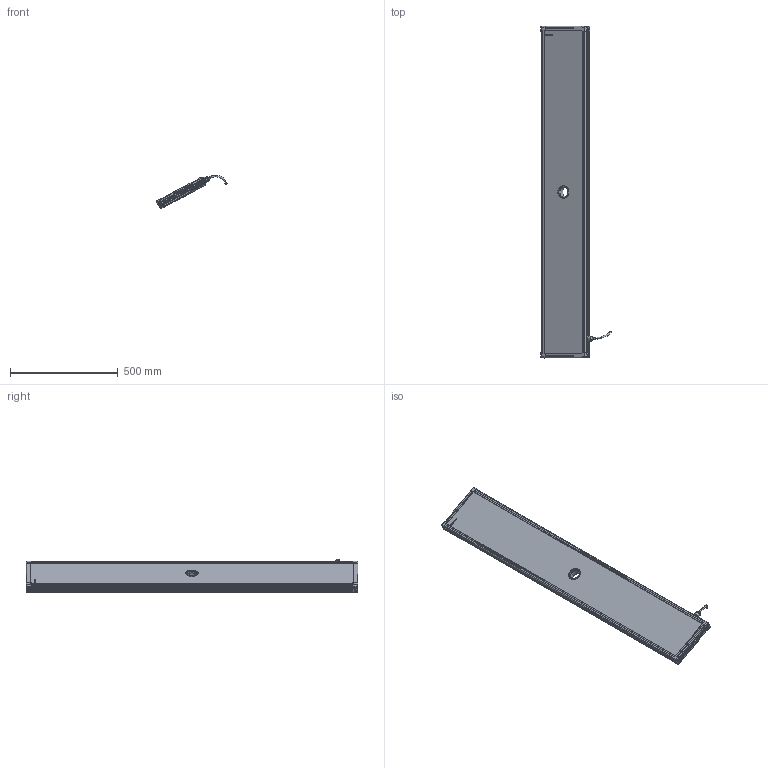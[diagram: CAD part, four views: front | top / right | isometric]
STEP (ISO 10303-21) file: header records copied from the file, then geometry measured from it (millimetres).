
FILE_DESCRIPTION (( 'STEP AP214' ), '1' );
FILE_NAME ('EFFI-FD-200-1000-ZZZ-1M12P.STEP', '2021-06-21T09:06:17', ( '' ), ( '' ), 'SwSTEP 2.0', 'SolidWorks 2021', '' );
FILE_SCHEMA (( 'AUTOMOTIVE_DESIGN' ));
Length unit declared in the file: millimetre
Products named in the file (13): EFFI-FD-200-1000-ZZZ-1M12P; M12 power_AVEC CABLE D8.1; profile X_PERCE; petite joue; petite joue + vis; 000590; 001039; Pièce13^EFFI-BL-XXX-YYY-ZZZ (1 connecteur) M12POWER Ø50; 000629; 001040; profile Y_PERCE; Assemblage Ø50
Assembly tree (19 placements, depth 3):
  EFFI-FD-200-1000-ZZZ-1M12P
    profile X_PERCE  x2
    profile Y_PERCE
    profile Y_PERCE
    Pièce13^EFFI-BL-XXX-YYY-ZZZ (1 connecteur) M12POWER Ø50
    petite joue + vis  x4
      petite joue
      000629
    M12 power_AVEC CABLE D8.1
    Assemblage Ø50
      001039
      001040
      000590  x3
Bounding box: 326.69 x 1539 x 155.49 mm (x, y, z)
Volume: 12604939.6 mm3; surface area: 1275008.2 mm2
Topology: 22 solids, 25 shells, 3946 faces, 10510 edges, 6901 vertices
Faces by surface type: plane 2446, cylinder 718, bspline 591, cone 154, torus 29, sphere 8
Entity records: 55870 total; most frequent: CARTESIAN_POINT 22540, ORIENTED_EDGE 6994, DIRECTION 5720, EDGE_CURVE 3499, VECTOR 2454, LINE 2454, VERTEX_POINT 2302, AXIS2_PLACEMENT_3D 1633
